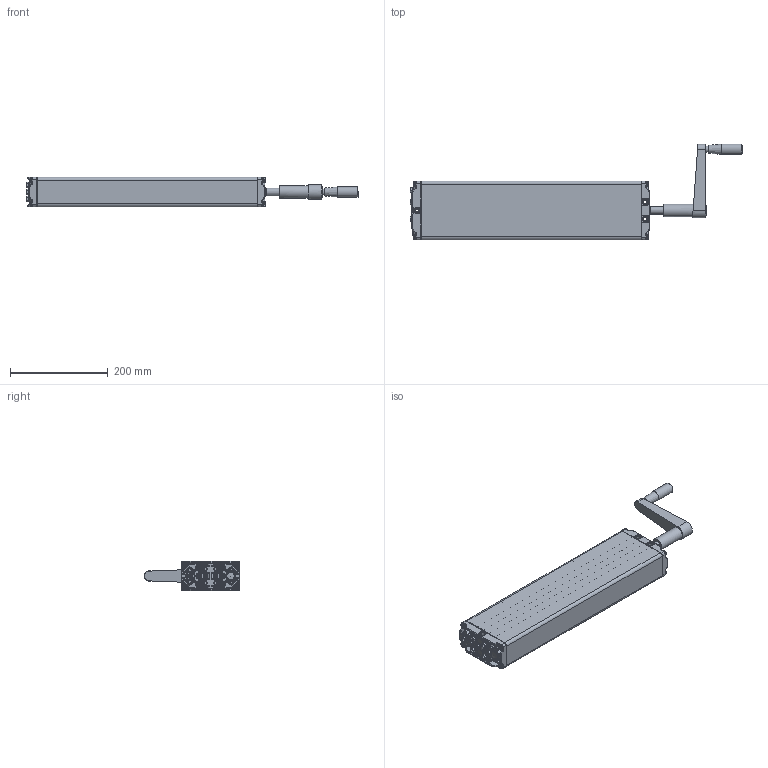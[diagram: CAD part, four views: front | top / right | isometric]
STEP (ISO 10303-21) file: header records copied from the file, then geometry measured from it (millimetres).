
FILE_DESCRIPTION(/* description */ ('Unknown'),/* implementation_level */ '2;1');
FILE_NAME(/* name */ '312.20033 Pumpe PB 5830 W mit Handkurbel',/* time_stamp */ '2016-10-21T15:56:17+02:00',/* author */ ('Unknown'),/* organization */ ('Unknown'),/* preprocessor_version */ 'ST-DEVELOPER v16.7',/* originating_system */ 'DEX',/* authorisation */ $);
FILE_SCHEMA (('AUTOMOTIVE_DESIGN {1 0 10303 214 3 1 1}'));
Products named in the file (22): 102.20033; 115.00033; 125.00045; 115.00008; 142.00021; 125.00021; 113.00005; 128.00001; 125.00052; 126.00013; 125.00053; 127.00014; Handgriff; 142.00013; 142.00110; 125.00143; 115.00140; 126.00006; 122.00040; 119.00043; 126.00005; 142.00057
Assembly tree (32 placements, depth 3):
  102.20033
    115.00033  x5
      125.00045
      115.00008
      142.00021
      125.00021
    113.00005
      128.00001
      125.00052
      126.00013
      125.00053
      127.00014
      Handgriff
    142.00013  x8
    142.00110
    125.00143
    115.00140
      126.00006
      122.00040
    119.00043
    126.00005
    142.00057
Bounding box: 677.72 x 195.5 x 60.3 mm (x, y, z)
Volume: 779694.4 mm3; surface area: 478050.1 mm2
Topology: 36 solids, 36 shells, 2636 faces, 6224 edges, 3595 vertices
Faces by surface type: plane 736, bspline 707, cylinder 589, cone 370, torus 174, sphere 60
Full cylindrical faces by diameter (mm): 3.5 x5, 4 x2, 4.1 x5, 4.2 x6, 4.917 x2, 5 x8, 6.917 x10, 8 x12, 9.8 x8, 10 x4, 10.4 x1, 12.8 x1, 13 x1, 14 x1, 14.4 x5, 15.8 x1, 16 x2, 17 x1, 17.3 x5, 17.9 x10, 18 x2, 19 x1, 20.6 x1, 21 x1, 21.2 x1, 22 x1, 25.5 x1
Entity records: 101371 total; most frequent: CARTESIAN_POINT 55714, ORIENTED_EDGE 8538, DIRECTION 6965, EDGE_CURVE 4269, AXIS2_PLACEMENT_3D 2803, VERTEX_POINT 2631, FACE_BOUND 2120, EDGE_LOOP 2117
